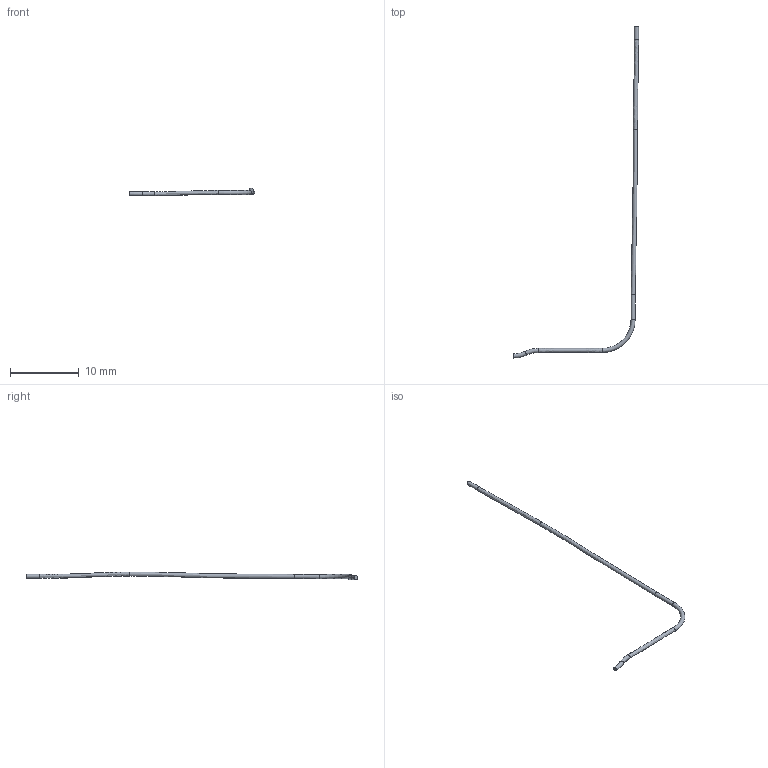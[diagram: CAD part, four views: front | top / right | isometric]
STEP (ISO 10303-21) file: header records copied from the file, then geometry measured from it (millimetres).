
FILE_DESCRIPTION(('FreeCAD Model'),'2;1');
FILE_NAME('Open CASCADE Shape Model','2026-11-12T12:42:00',('FreeCAD'),( 'FreeCAD'),'Open CASCADE STEP processor 7.8','FreeCAD','Unknown');
FILE_SCHEMA(('AUTOMOTIVE_DESIGN { 1 0 10303 214 1 1 1 1 }'));
Length unit declared in the file: millimetre
Products named in the file (1): Open CASCADE STEP translator 7.8 6
Bounding box: 18.23 x 48.34 x 1.1 mm (x, y, z)
Volume: 17.8 mm3; surface area: 119.1 mm2
Topology: 1 solids, 1 shells, 10 faces, 17 edges, 9 vertices
Faces by surface type: bspline 3, torus 3, cylinder 2, plane 2
Full cylindrical faces by diameter (mm): 0.6 x2
Entity records: 2628 total; most frequent: CARTESIAN_POINT 2448, DIRECTION 36, ORIENTED_EDGE 34, AXIS2_PLACEMENT_3D 17, EDGE_CURVE 17, ADVANCED_FACE 10, FACE_BOUND 10, EDGE_LOOP 10
